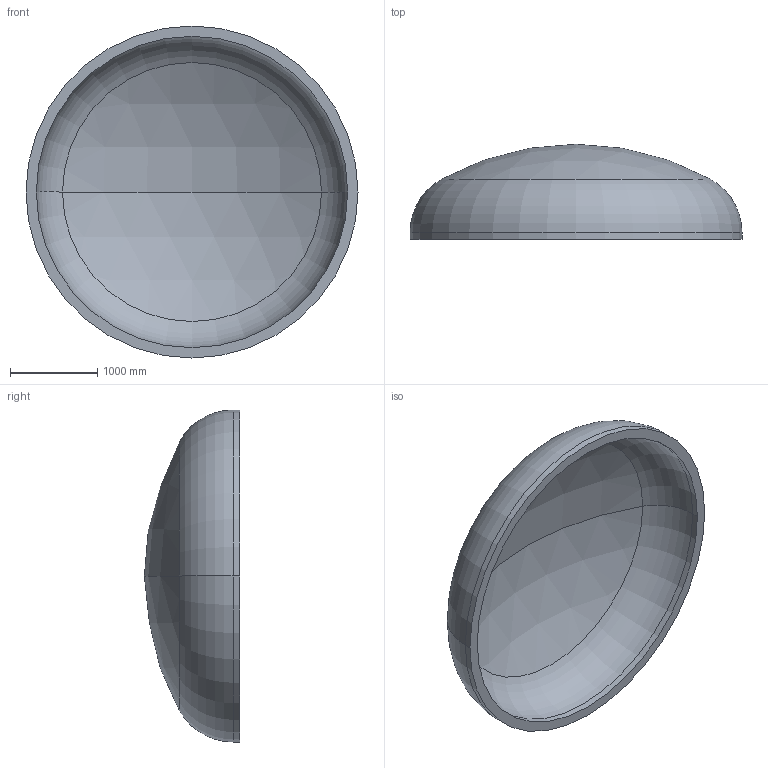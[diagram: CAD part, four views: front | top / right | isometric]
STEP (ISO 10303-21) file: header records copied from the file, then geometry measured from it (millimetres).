
FILE_DESCRIPTION (( 'STEP AP203' ), '1' );
FILE_NAME ('DIN 28013 Korbbogenform_-_Boden DIN 28013 - 3800 x 75 - I - s=118.step', '2016-07-01T21:54:39', ( '' ), ( '' ), 'SwSTEP 2.0', 'SolidWorks 2013', '' );
FILE_SCHEMA (( 'CONFIG_CONTROL_DESIGN' ));
Length unit declared in the file: millimetre
Products named in the file (1): DIN 28013 Korbbogenform_-_Boden DIN 28013 - 3800 x 75 - I - s=118
Bounding box: 3800 x 1089.59 x 3800 mm (x, y, z)
Volume: 1882090014.9 mm3; surface area: 33293928.9 mm2
Topology: 1 solids, 1 shells, 13 faces, 24 edges, 14 vertices
Faces by surface type: torus 4, cylinder 4, sphere 4, plane 1
Entity records: 407 total; most frequent: DIRECTION 72, CARTESIAN_POINT 52, ORIENTED_EDGE 48, AXIS2_PLACEMENT_3D 34, EDGE_CURVE 24, CIRCLE 20, EDGE_LOOP 14, VERTEX_POINT 14
